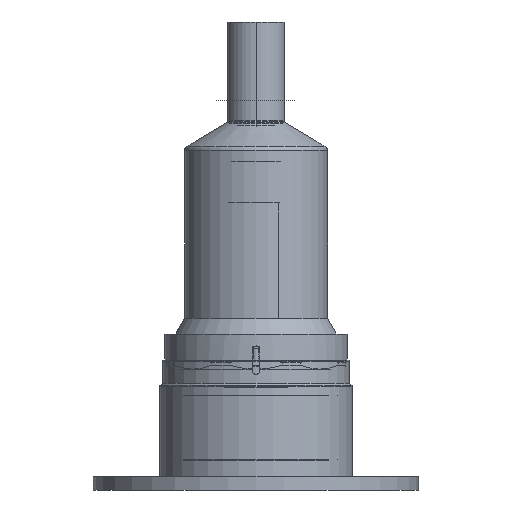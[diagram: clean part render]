
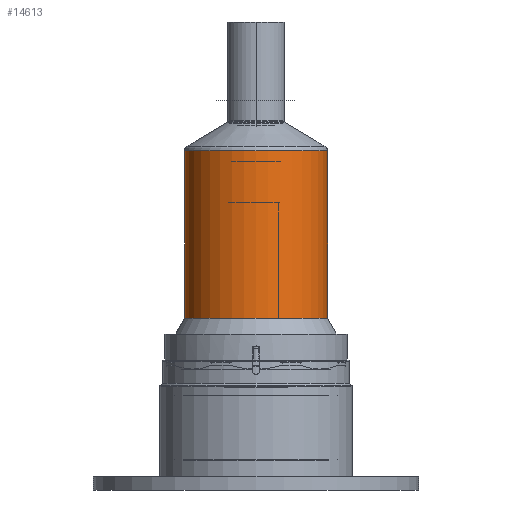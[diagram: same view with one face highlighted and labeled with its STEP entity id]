
A CAD part, front view. The second image highlights one B-rep face of the part: STEP entity #14613.
In plain terms, the highlighted cylindrical face has radius 27.5 mm (diameter 55 mm), a partial arc.
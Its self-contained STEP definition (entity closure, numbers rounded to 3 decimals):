
#1251 = CYLINDRICAL_SURFACE ( 'NONE', #4371, 27.5 ) ;
#1884 = DIRECTION ( 'NONE',  ( 0., 0., -1. ) ) ;
#2257 = VERTEX_POINT ( 'NONE', #15653 ) ;
#2356 = EDGE_LOOP ( 'NONE', ( #13462, #10423, #15579, #9570 ) ) ;
#3132 = EDGE_CURVE ( 'NONE', #18406, #2257, #7888, .T. ) ;
#3535 = LINE ( 'NONE', #10758, #13834 ) ;
#4371 = AXIS2_PLACEMENT_3D ( 'NONE', #16198, #1884, #14714 ) ;
#4547 = AXIS2_PLACEMENT_3D ( 'NONE', #12152, #6603, #17973 ) ;
#5041 = EDGE_CURVE ( 'NONE', #18406, #18166, #15639, .T. ) ;
#5076 = FACE_OUTER_BOUND ( 'NONE', #2356, .T. ) ;
#6114 = DIRECTION ( 'NONE',  ( 0., 0., -1. ) ) ;
#6603 = DIRECTION ( 'NONE',  ( 0., 0., -1. ) ) ;
#7360 = EDGE_CURVE ( 'NONE', #2257, #13924, #3535, .T. ) ;
#7888 = CIRCLE ( 'NONE', #4547, 27.5 ) ;
#8070 = VECTOR ( 'NONE', #6114, 1000. ) ;
#9570 = ORIENTED_EDGE ( 'NONE', *, *, #5041, .F. ) ;
#9694 = CIRCLE ( 'NONE', #15528, 27.5 ) ;
#9928 = CARTESIAN_POINT ( 'NONE',  ( 27.5, 0., 125.497 ) ) ;
#10367 = CARTESIAN_POINT ( 'NONE',  ( 27.5, 0., 118. ) ) ;
#10423 = ORIENTED_EDGE ( 'NONE', *, *, #7360, .T. ) ;
#10758 = CARTESIAN_POINT ( 'NONE',  ( -27.5, 0., 118. ) ) ;
#12152 = CARTESIAN_POINT ( 'NONE',  ( 0., 0., 125.497 ) ) ;
#12536 = DIRECTION ( 'NONE',  ( 0., 0., -1. ) ) ;
#13462 = ORIENTED_EDGE ( 'NONE', *, *, #3132, .T. ) ;
#13488 = DIRECTION ( 'NONE',  ( 0., 0., -1. ) ) ;
#13834 = VECTOR ( 'NONE', #13488, 1000. ) ;
#13924 = VERTEX_POINT ( 'NONE', #15660 ) ;
#14613 = ADVANCED_FACE ( 'NONE', ( #5076 ), #1251, .T. ) ;
#14714 = DIRECTION ( 'NONE',  ( 1., 0., 0. ) ) ;
#15087 = DIRECTION ( 'NONE',  ( -1., 0., 0. ) ) ;
#15528 = AXIS2_PLACEMENT_3D ( 'NONE', #18164, #12536, #15087 ) ;
#15579 = ORIENTED_EDGE ( 'NONE', *, *, #16937, .F. ) ;
#15639 = LINE ( 'NONE', #10367, #8070 ) ;
#15653 = CARTESIAN_POINT ( 'NONE',  ( -27.5, 0., 125.497 ) ) ;
#15660 = CARTESIAN_POINT ( 'NONE',  ( -27.5, 0., 61.062 ) ) ;
#16198 = CARTESIAN_POINT ( 'NONE',  ( 0., 0., 118. ) ) ;
#16533 = CARTESIAN_POINT ( 'NONE',  ( 27.5, 0., 61.062 ) ) ;
#16937 = EDGE_CURVE ( 'NONE', #18166, #13924, #9694, .T. ) ;
#17973 = DIRECTION ( 'NONE',  ( -1., 0., 0. ) ) ;
#18164 = CARTESIAN_POINT ( 'NONE',  ( 0., 0., 61.062 ) ) ;
#18166 = VERTEX_POINT ( 'NONE', #16533 ) ;
#18406 = VERTEX_POINT ( 'NONE', #9928 ) ;
